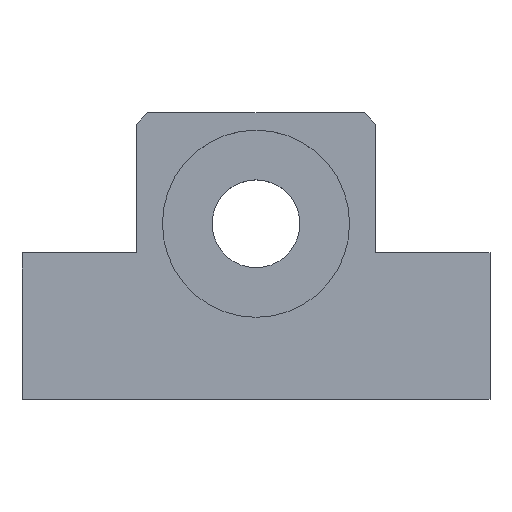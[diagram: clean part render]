
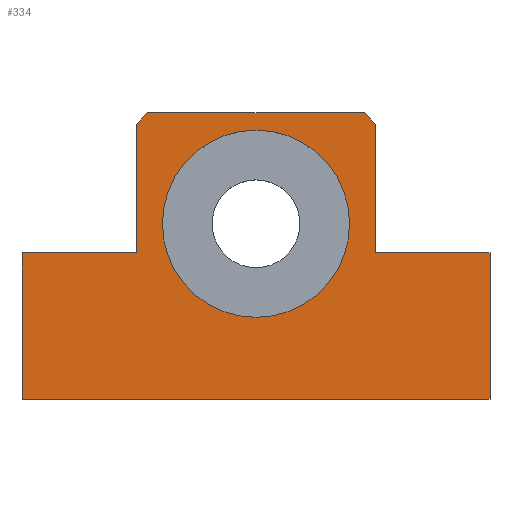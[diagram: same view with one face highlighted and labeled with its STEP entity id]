
A CAD part, top view. The second image highlights one B-rep face of the part: STEP entity #334.
In plain terms, the highlighted planar face has unit normal (0, 0, 1).
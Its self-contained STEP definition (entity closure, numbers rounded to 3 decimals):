
#36=FACE_BOUND($,#91,.T.);
#42=CIRCLE($,#351,16.);
#59=FACE_OUTER_BOUND($,#90,.T.);
#90=EDGE_LOOP($,(#291,#292,#293,#294,#295,#296,#297,#298,#299,#300));
#91=EDGE_LOOP($,(#301));
#92=LINE($,#461,#122);
#98=LINE($,#472,#128);
#107=LINE($,#493,#137);
#110=LINE($,#524,#140);
#112=LINE($,#528,#142);
#114=LINE($,#531,#144);
#115=LINE($,#534,#145);
#117=LINE($,#538,#147);
#119=LINE($,#542,#149);
#121=LINE($,#545,#151);
#122=VECTOR($,#371,2.828);
#128=VECTOR($,#379,37.);
#137=VECTOR($,#394,2.828);
#140=VECTOR($,#431,25.);
#142=VECTOR($,#435,19.5);
#144=VECTOR($,#439,22.);
#145=VECTOR($,#442,22.);
#147=VECTOR($,#446,19.5);
#149=VECTOR($,#450,25.);
#151=VECTOR($,#454,80.);
#152=VERTEX_POINT($,#459);
#153=VERTEX_POINT($,#460);
#157=VERTEX_POINT($,#470);
#166=VERTEX_POINT($,#492);
#171=VERTEX_POINT($,#507);
#176=VERTEX_POINT($,#521);
#177=VERTEX_POINT($,#523);
#178=VERTEX_POINT($,#527);
#179=VERTEX_POINT($,#533);
#180=VERTEX_POINT($,#537);
#181=VERTEX_POINT($,#541);
#182=EDGE_CURVE($,#152,#153,#92,.T.);
#188=EDGE_CURVE($,#152,#157,#98,.T.);
#198=EDGE_CURVE($,#166,#157,#107,.T.);
#204=EDGE_CURVE($,#171,#171,#42,.T.);
#210=EDGE_CURVE($,#177,#176,#110,.T.);
#212=EDGE_CURVE($,#178,#177,#112,.T.);
#214=EDGE_CURVE($,#166,#178,#114,.T.);
#215=EDGE_CURVE($,#179,#153,#115,.T.);
#217=EDGE_CURVE($,#180,#179,#117,.T.);
#219=EDGE_CURVE($,#181,#180,#119,.T.);
#221=EDGE_CURVE($,#176,#181,#121,.T.);
#291=ORIENTED_EDGE($,*,*,#182,.F.);
#292=ORIENTED_EDGE($,*,*,#188,.T.);
#293=ORIENTED_EDGE($,*,*,#198,.F.);
#294=ORIENTED_EDGE($,*,*,#214,.T.);
#295=ORIENTED_EDGE($,*,*,#212,.T.);
#296=ORIENTED_EDGE($,*,*,#210,.T.);
#297=ORIENTED_EDGE($,*,*,#221,.T.);
#298=ORIENTED_EDGE($,*,*,#219,.T.);
#299=ORIENTED_EDGE($,*,*,#217,.T.);
#300=ORIENTED_EDGE($,*,*,#215,.T.);
#301=ORIENTED_EDGE($,*,*,#204,.T.);
#315=PLANE($,#366);
#334=ADVANCED_FACE($,(#59,#36),#315,.T.);
#351=AXIS2_PLACEMENT_3D($,#508,#412,#413);
#366=AXIS2_PLACEMENT_3D($,#546,#455,#456);
#371=DIRECTION($,(0.707,-0.707,0.));
#379=DIRECTION($,(-1.,0.,0.));
#394=DIRECTION($,(0.707,0.707,0.));
#412=DIRECTION('center_axis',(0.,0.,-1.));
#413=DIRECTION('ref_axis',(-1.,0.,0.));
#431=DIRECTION($,(0.,-1.,0.));
#435=DIRECTION($,(-1.,0.,0.));
#439=DIRECTION($,(0.,-1.,0.));
#442=DIRECTION($,(0.,1.,0.));
#446=DIRECTION($,(-1.,0.,0.));
#450=DIRECTION($,(0.,1.,0.));
#454=DIRECTION($,(1.,0.,0.));
#455=DIRECTION('center_axis',(0.,0.,1.));
#456=DIRECTION('ref_axis',(1.,0.,0.));
#459=CARTESIAN_POINT('',(58.5,49.,20.));
#460=CARTESIAN_POINT('',(60.5,47.,20.));
#461=CARTESIAN_POINT($,(61.407,46.093,20.));
#470=CARTESIAN_POINT('',(21.5,49.,20.));
#472=CARTESIAN_POINT($,(60.5,49.,20.));
#492=CARTESIAN_POINT('',(19.5,47.,20.));
#493=CARTESIAN_POINT($,(18.593,46.093,20.));
#507=CARTESIAN_POINT('',(56.,30.,20.));
#508=CARTESIAN_POINT('Origin',(40.,30.,20.));
#521=CARTESIAN_POINT('',(0.,0.,20.));
#523=CARTESIAN_POINT('',(0.,25.,20.));
#524=CARTESIAN_POINT($,(0.,25.,20.));
#527=CARTESIAN_POINT('',(19.5,25.,20.));
#528=CARTESIAN_POINT($,(19.5,25.,20.));
#531=CARTESIAN_POINT($,(19.5,49.,20.));
#533=CARTESIAN_POINT('',(60.5,25.,20.));
#534=CARTESIAN_POINT($,(60.5,25.,20.));
#537=CARTESIAN_POINT('',(80.,25.,20.));
#538=CARTESIAN_POINT($,(80.,25.,20.));
#541=CARTESIAN_POINT('',(80.,0.,20.));
#542=CARTESIAN_POINT($,(80.,0.,20.));
#545=CARTESIAN_POINT($,(0.,0.,20.));
#546=CARTESIAN_POINT('Origin',(40.,20.872,20.));
